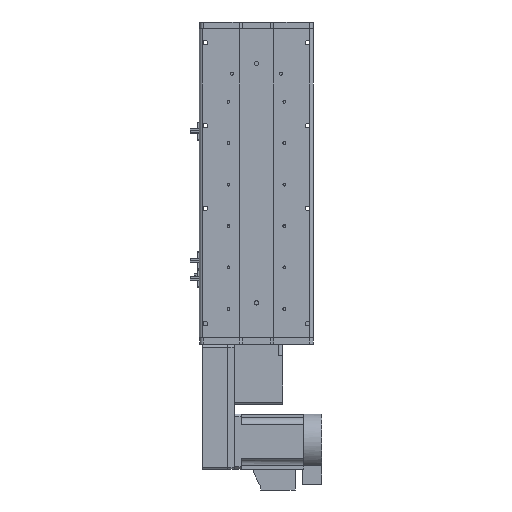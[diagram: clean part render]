
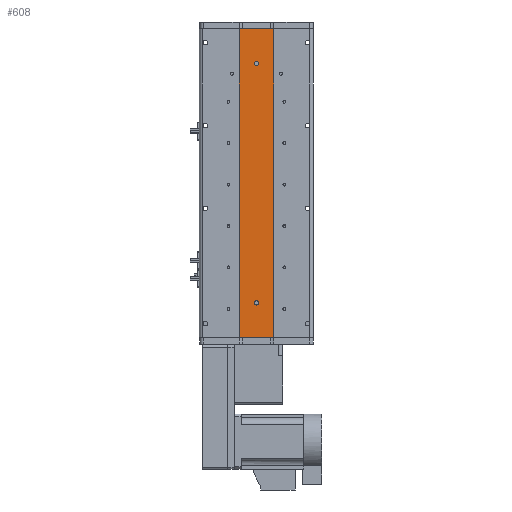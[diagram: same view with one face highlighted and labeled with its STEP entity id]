
A CAD part, front view. The second image highlights one B-rep face of the part: STEP entity #608.
In plain terms, the highlighted planar face has unit normal (0, -1, 0).
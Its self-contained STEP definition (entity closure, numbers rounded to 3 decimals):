
#285 = AXIS2_PLACEMENT_3D ( 'NONE', #36648, #8944, #41364 ) ;
#608 = ADVANCED_FACE ( 'NONE', ( #53777, #16831, #7435 ), #4536, .F. ) ;
#929 = CARTESIAN_POINT ( 'NONE',  ( 0., 1., -170.5 ) ) ;
#1216 = EDGE_CURVE ( 'NONE', #10119, #51008, #59452, .T. ) ;
#2242 = CIRCLE ( 'NONE', #35889, 3. ) ;
#4536 = PLANE ( 'NONE',  #18227 ) ;
#5497 = DIRECTION ( 'NONE',  ( 0., 1., 0. ) ) ;
#5720 = EDGE_LOOP ( 'NONE', ( #51590, #15424 ) ) ;
#6057 = DIRECTION ( 'NONE',  ( 0., 1., 0. ) ) ;
#7435 = FACE_OUTER_BOUND ( 'NONE', #40655, .T. ) ;
#7926 = EDGE_LOOP ( 'NONE', ( #52056, #15857 ) ) ;
#8944 = DIRECTION ( 'NONE',  ( 0., 1., 0. ) ) ;
#10119 = VERTEX_POINT ( 'NONE', #13440 ) ;
#11781 = LINE ( 'NONE', #31614, #45857 ) ;
#13440 = CARTESIAN_POINT ( 'NONE',  ( 25., 1., 223.5 ) ) ;
#13871 = DIRECTION ( 'NONE',  ( 0., 1., 0. ) ) ;
#15097 = VERTEX_POINT ( 'NONE', #19741 ) ;
#15424 = ORIENTED_EDGE ( 'NONE', *, *, #48716, .T. ) ;
#15857 = ORIENTED_EDGE ( 'NONE', *, *, #47273, .T. ) ;
#15958 = ORIENTED_EDGE ( 'NONE', *, *, #1216, .F. ) ;
#16708 = VERTEX_POINT ( 'NONE', #929 ) ;
#16831 = FACE_BOUND ( 'NONE', #7926, .T. ) ;
#17139 = EDGE_CURVE ( 'NONE', #31314, #15097, #11781, .T. ) ;
#17344 = CARTESIAN_POINT ( 'NONE',  ( 25., 1., 223.5 ) ) ;
#17865 = DIRECTION ( 'NONE',  ( 1., 0., 0. ) ) ;
#18206 = VECTOR ( 'NONE', #17865, 1000. ) ;
#18227 = AXIS2_PLACEMENT_3D ( 'NONE', #27631, #13871, #46294 ) ;
#18747 = DIRECTION ( 'NONE',  ( 0., 0., -1. ) ) ;
#19741 = CARTESIAN_POINT ( 'NONE',  ( -25., 1., -223.5 ) ) ;
#19875 = DIRECTION ( 'NONE',  ( 0., 0., -1. ) ) ;
#22050 = VERTEX_POINT ( 'NONE', #51684 ) ;
#22233 = ORIENTED_EDGE ( 'NONE', *, *, #23125, .F. ) ;
#23059 = CARTESIAN_POINT ( 'NONE',  ( -25., 1., 223.5 ) ) ;
#23125 = EDGE_CURVE ( 'NONE', #31314, #10119, #38129, .T. ) ;
#24216 = AXIS2_PLACEMENT_3D ( 'NONE', #33247, #5497, #37904 ) ;
#26118 = DIRECTION ( 'NONE',  ( 0., 1., 0. ) ) ;
#27631 = CARTESIAN_POINT ( 'NONE',  ( 25., 1., 223.5 ) ) ;
#29598 = EDGE_CURVE ( 'NONE', #47040, #22050, #47429, .T. ) ;
#31314 = VERTEX_POINT ( 'NONE', #23059 ) ;
#31614 = CARTESIAN_POINT ( 'NONE',  ( -25., 1., 223.5 ) ) ;
#33247 = CARTESIAN_POINT ( 'NONE',  ( 0., 1., 173.5 ) ) ;
#33801 = CARTESIAN_POINT ( 'NONE',  ( 0., 1., -173.5 ) ) ;
#35889 = AXIS2_PLACEMENT_3D ( 'NONE', #53850, #26118, #58493 ) ;
#36648 = CARTESIAN_POINT ( 'NONE',  ( 0., 1., 173.5 ) ) ;
#36778 = ORIENTED_EDGE ( 'NONE', *, *, #48431, .T. ) ;
#37904 = DIRECTION ( 'NONE',  ( 0., 0., 1. ) ) ;
#38129 = LINE ( 'NONE', #17344, #49028 ) ;
#38491 = DIRECTION ( 'NONE',  ( 0., 0., 1. ) ) ;
#40297 = VERTEX_POINT ( 'NONE', #57655 ) ;
#40655 = EDGE_LOOP ( 'NONE', ( #36778, #15958, #22233, #56790 ) ) ;
#41364 = DIRECTION ( 'NONE',  ( 0., 0., 1. ) ) ;
#43039 = CIRCLE ( 'NONE', #24216, 3. ) ;
#45042 = CARTESIAN_POINT ( 'NONE',  ( 0., 1., 170.5 ) ) ;
#45857 = VECTOR ( 'NONE', #19875, 1000. ) ;
#46294 = DIRECTION ( 'NONE',  ( 0., 0., 1. ) ) ;
#46694 = CARTESIAN_POINT ( 'NONE',  ( 25., 1., 223.5 ) ) ;
#47040 = VERTEX_POINT ( 'NONE', #45042 ) ;
#47201 = VECTOR ( 'NONE', #18747, 1000. ) ;
#47273 = EDGE_CURVE ( 'NONE', #22050, #47040, #43039, .T. ) ;
#47429 = CIRCLE ( 'NONE', #285, 3. ) ;
#48431 = EDGE_CURVE ( 'NONE', #15097, #51008, #55160, .T. ) ;
#48716 = EDGE_CURVE ( 'NONE', #16708, #40297, #2242, .T. ) ;
#49028 = VECTOR ( 'NONE', #54386, 1000. ) ;
#49591 = CIRCLE ( 'NONE', #50467, 3. ) ;
#50467 = AXIS2_PLACEMENT_3D ( 'NONE', #33801, #6057, #38491 ) ;
#51008 = VERTEX_POINT ( 'NONE', #57886 ) ;
#51590 = ORIENTED_EDGE ( 'NONE', *, *, #52579, .T. ) ;
#51684 = CARTESIAN_POINT ( 'NONE',  ( 0., 1., 176.5 ) ) ;
#52056 = ORIENTED_EDGE ( 'NONE', *, *, #29598, .T. ) ;
#52579 = EDGE_CURVE ( 'NONE', #40297, #16708, #49591, .T. ) ;
#53777 = FACE_BOUND ( 'NONE', #5720, .T. ) ;
#53850 = CARTESIAN_POINT ( 'NONE',  ( 0., 1., -173.5 ) ) ;
#54386 = DIRECTION ( 'NONE',  ( 1., 0., 0. ) ) ;
#55128 = CARTESIAN_POINT ( 'NONE',  ( 25., 1., -223.5 ) ) ;
#55160 = LINE ( 'NONE', #55128, #18206 ) ;
#56790 = ORIENTED_EDGE ( 'NONE', *, *, #17139, .T. ) ;
#57655 = CARTESIAN_POINT ( 'NONE',  ( 0., 1., -176.5 ) ) ;
#57886 = CARTESIAN_POINT ( 'NONE',  ( 25., 1., -223.5 ) ) ;
#58493 = DIRECTION ( 'NONE',  ( 0., 0., 1. ) ) ;
#59452 = LINE ( 'NONE', #46694, #47201 ) ;
